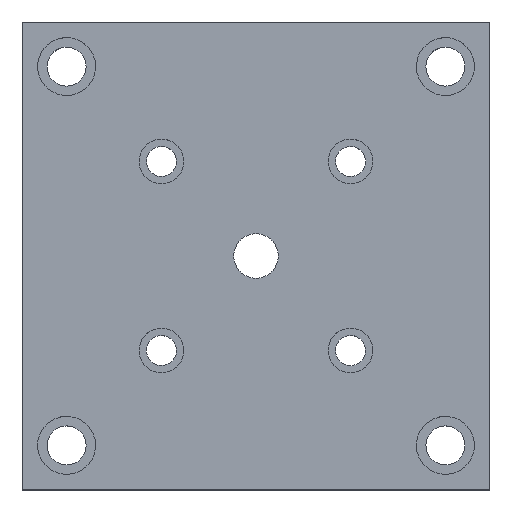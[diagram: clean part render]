
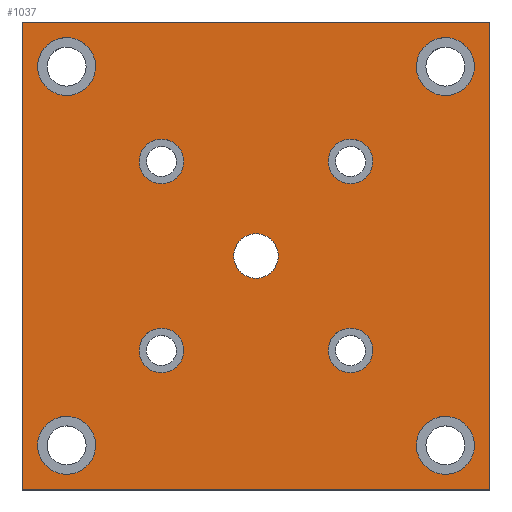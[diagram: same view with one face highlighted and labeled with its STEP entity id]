
A CAD part, top view. The second image highlights one B-rep face of the part: STEP entity #1037.
In plain terms, the highlighted planar face has unit normal (0, 0, 1).
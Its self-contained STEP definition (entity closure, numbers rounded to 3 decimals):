
#148=CARTESIAN_POINT('Vertex',(-48.063,161.937,25.)) ;
#162=CARTESIAN_POINT('Vertex',(-48.063,-48.063,25.)) ;
#165=CARTESIAN_POINT('Line Origine',(-48.063,56.937,25.)) ;
#193=CARTESIAN_POINT('Vertex',(161.937,-48.063,25.)) ;
#196=CARTESIAN_POINT('Line Origine',(56.937,-48.063,25.)) ;
#224=CARTESIAN_POINT('Vertex',(161.937,161.937,25.)) ;
#227=CARTESIAN_POINT('Line Origine',(161.937,56.937,25.)) ;
#249=CARTESIAN_POINT('Line Origine',(56.937,161.937,25.)) ;
#591=CARTESIAN_POINT('Axis2P3D Location',(56.937,56.937,25.)) ;
#595=CARTESIAN_POINT('Vertex',(66.937,56.937,25.)) ;
#597=CARTESIAN_POINT('Vertex',(46.937,56.937,25.)) ;
#626=CARTESIAN_POINT('Axis2P3D Location',(56.937,56.937,25.)) ;
#648=CARTESIAN_POINT('Axis2P3D Location',(-28.063,141.937,25.)) ;
#652=CARTESIAN_POINT('Vertex',(-16.654,135.705,25.)) ;
#654=CARTESIAN_POINT('Vertex',(-39.471,148.17,25.)) ;
#674=CARTESIAN_POINT('Axis2P3D Location',(-28.063,141.937,25.)) ;
#691=CARTESIAN_POINT('Axis2P3D Location',(141.937,141.937,25.)) ;
#695=CARTESIAN_POINT('Vertex',(153.346,135.705,25.)) ;
#697=CARTESIAN_POINT('Vertex',(130.529,148.17,25.)) ;
#717=CARTESIAN_POINT('Axis2P3D Location',(141.937,141.937,25.)) ;
#734=CARTESIAN_POINT('Axis2P3D Location',(-28.063,-28.063,25.)) ;
#738=CARTESIAN_POINT('Vertex',(-16.654,-34.295,25.)) ;
#740=CARTESIAN_POINT('Vertex',(-39.471,-21.83,25.)) ;
#760=CARTESIAN_POINT('Axis2P3D Location',(-28.063,-28.063,25.)) ;
#777=CARTESIAN_POINT('Axis2P3D Location',(141.937,-28.063,25.)) ;
#781=CARTESIAN_POINT('Vertex',(153.346,-34.295,25.)) ;
#783=CARTESIAN_POINT('Vertex',(130.529,-21.83,25.)) ;
#803=CARTESIAN_POINT('Axis2P3D Location',(141.937,-28.063,25.)) ;
#820=CARTESIAN_POINT('Axis2P3D Location',(14.507,99.367,25.)) ;
#824=CARTESIAN_POINT('Vertex',(5.732,104.162,25.)) ;
#826=CARTESIAN_POINT('Vertex',(23.283,94.573,25.)) ;
#846=CARTESIAN_POINT('Axis2P3D Location',(14.507,99.367,25.)) ;
#948=CARTESIAN_POINT('Axis2P3D Location',(0.,0.,25.)) ;
#959=CARTESIAN_POINT('Axis2P3D Location',(14.507,14.507,25.)) ;
#963=CARTESIAN_POINT('Vertex',(19.302,23.283,25.)) ;
#965=CARTESIAN_POINT('Vertex',(9.713,5.732,25.)) ;
#968=CARTESIAN_POINT('Axis2P3D Location',(14.507,14.507,25.)) ;
#1001=CARTESIAN_POINT('Axis2P3D Location',(99.367,14.507,25.)) ;
#1005=CARTESIAN_POINT('Vertex',(90.592,19.302,25.)) ;
#1007=CARTESIAN_POINT('Vertex',(108.143,9.713,25.)) ;
#1010=CARTESIAN_POINT('Axis2P3D Location',(99.367,14.507,25.)) ;
#1019=CARTESIAN_POINT('Axis2P3D Location',(99.367,99.367,25.)) ;
#1023=CARTESIAN_POINT('Vertex',(94.573,90.592,25.)) ;
#1025=CARTESIAN_POINT('Vertex',(104.162,108.143,25.)) ;
#1028=CARTESIAN_POINT('Axis2P3D Location',(99.367,99.367,25.)) ;
#166=DIRECTION('Vector Direction',(0.,-1.,0.)) ;
#197=DIRECTION('Vector Direction',(-1.,0.,0.)) ;
#228=DIRECTION('Vector Direction',(0.,1.,0.)) ;
#250=DIRECTION('Vector Direction',(1.,0.,0.)) ;
#592=DIRECTION('Axis2P3D Direction',(0.,0.,1.)) ;
#627=DIRECTION('Axis2P3D Direction',(0.,0.,1.)) ;
#649=DIRECTION('Axis2P3D Direction',(0.,0.,-1.)) ;
#675=DIRECTION('Axis2P3D Direction',(0.,0.,-1.)) ;
#692=DIRECTION('Axis2P3D Direction',(0.,0.,-1.)) ;
#718=DIRECTION('Axis2P3D Direction',(0.,0.,-1.)) ;
#735=DIRECTION('Axis2P3D Direction',(0.,0.,-1.)) ;
#761=DIRECTION('Axis2P3D Direction',(0.,0.,-1.)) ;
#778=DIRECTION('Axis2P3D Direction',(0.,0.,-1.)) ;
#804=DIRECTION('Axis2P3D Direction',(0.,0.,-1.)) ;
#821=DIRECTION('Axis2P3D Direction',(0.,0.,-1.)) ;
#847=DIRECTION('Axis2P3D Direction',(0.,0.,-1.)) ;
#949=DIRECTION('Axis2P3D Direction',(0.,0.,1.)) ;
#950=DIRECTION('Axis2P3D XDirection',(1.,0.,0.)) ;
#960=DIRECTION('Axis2P3D Direction',(0.,0.,1.)) ;
#969=DIRECTION('Axis2P3D Direction',(0.,0.,1.)) ;
#1002=DIRECTION('Axis2P3D Direction',(0.,0.,1.)) ;
#1011=DIRECTION('Axis2P3D Direction',(0.,0.,1.)) ;
#1020=DIRECTION('Axis2P3D Direction',(0.,0.,1.)) ;
#1029=DIRECTION('Axis2P3D Direction',(0.,0.,1.)) ;
#593=AXIS2_PLACEMENT_3D('Circle Axis2P3D',#591,#592,$) ;
#628=AXIS2_PLACEMENT_3D('Circle Axis2P3D',#626,#627,$) ;
#650=AXIS2_PLACEMENT_3D('Circle Axis2P3D',#648,#649,$) ;
#676=AXIS2_PLACEMENT_3D('Circle Axis2P3D',#674,#675,$) ;
#693=AXIS2_PLACEMENT_3D('Circle Axis2P3D',#691,#692,$) ;
#719=AXIS2_PLACEMENT_3D('Circle Axis2P3D',#717,#718,$) ;
#736=AXIS2_PLACEMENT_3D('Circle Axis2P3D',#734,#735,$) ;
#762=AXIS2_PLACEMENT_3D('Circle Axis2P3D',#760,#761,$) ;
#779=AXIS2_PLACEMENT_3D('Circle Axis2P3D',#777,#778,$) ;
#805=AXIS2_PLACEMENT_3D('Circle Axis2P3D',#803,#804,$) ;
#822=AXIS2_PLACEMENT_3D('Circle Axis2P3D',#820,#821,$) ;
#848=AXIS2_PLACEMENT_3D('Circle Axis2P3D',#846,#847,$) ;
#951=AXIS2_PLACEMENT_3D('Plane Axis2P3D',#948,#949,#950) ;
#961=AXIS2_PLACEMENT_3D('Circle Axis2P3D',#959,#960,$) ;
#970=AXIS2_PLACEMENT_3D('Circle Axis2P3D',#968,#969,$) ;
#1003=AXIS2_PLACEMENT_3D('Circle Axis2P3D',#1001,#1002,$) ;
#1012=AXIS2_PLACEMENT_3D('Circle Axis2P3D',#1010,#1011,$) ;
#1021=AXIS2_PLACEMENT_3D('Circle Axis2P3D',#1019,#1020,$) ;
#1030=AXIS2_PLACEMENT_3D('Circle Axis2P3D',#1028,#1029,$) ;
#954=ORIENTED_EDGE('',*,*,#169,.T.) ;
#955=ORIENTED_EDGE('',*,*,#200,.T.) ;
#956=ORIENTED_EDGE('',*,*,#231,.T.) ;
#957=ORIENTED_EDGE('',*,*,#253,.T.) ;
#974=ORIENTED_EDGE('',*,*,#967,.F.) ;
#975=ORIENTED_EDGE('',*,*,#972,.F.) ;
#978=ORIENTED_EDGE('',*,*,#828,.F.) ;
#979=ORIENTED_EDGE('',*,*,#850,.F.) ;
#982=ORIENTED_EDGE('',*,*,#807,.F.) ;
#983=ORIENTED_EDGE('',*,*,#785,.F.) ;
#986=ORIENTED_EDGE('',*,*,#764,.F.) ;
#987=ORIENTED_EDGE('',*,*,#742,.F.) ;
#990=ORIENTED_EDGE('',*,*,#721,.F.) ;
#991=ORIENTED_EDGE('',*,*,#699,.F.) ;
#994=ORIENTED_EDGE('',*,*,#678,.F.) ;
#995=ORIENTED_EDGE('',*,*,#656,.F.) ;
#998=ORIENTED_EDGE('',*,*,#630,.F.) ;
#999=ORIENTED_EDGE('',*,*,#599,.F.) ;
#1016=ORIENTED_EDGE('',*,*,#1009,.F.) ;
#1017=ORIENTED_EDGE('',*,*,#1014,.F.) ;
#1034=ORIENTED_EDGE('',*,*,#1027,.F.) ;
#1035=ORIENTED_EDGE('',*,*,#1032,.F.) ;
#976=FACE_BOUND('',#973,.T.) ;
#980=FACE_BOUND('',#977,.T.) ;
#984=FACE_BOUND('',#981,.T.) ;
#988=FACE_BOUND('',#985,.T.) ;
#992=FACE_BOUND('',#989,.T.) ;
#996=FACE_BOUND('',#993,.T.) ;
#1000=FACE_BOUND('',#997,.T.) ;
#1018=FACE_BOUND('',#1015,.T.) ;
#1036=FACE_BOUND('',#1033,.T.) ;
#167=VECTOR('Line Direction',#166,1.) ;
#198=VECTOR('Line Direction',#197,1.) ;
#229=VECTOR('Line Direction',#228,1.) ;
#251=VECTOR('Line Direction',#250,1.) ;
#1037=ADVANCED_FACE('',(#958,#976,#980,#984,#988,#992,#996,#1000,#1018,#1036),#952,.T.) ;
#594=CIRCLE('generated circle',#593,10.) ;
#629=CIRCLE('generated circle',#628,10.) ;
#651=CIRCLE('generated circle',#650,13.) ;
#677=CIRCLE('generated circle',#676,13.) ;
#694=CIRCLE('generated circle',#693,13.) ;
#720=CIRCLE('generated circle',#719,13.) ;
#737=CIRCLE('generated circle',#736,13.) ;
#763=CIRCLE('generated circle',#762,13.) ;
#780=CIRCLE('generated circle',#779,13.) ;
#806=CIRCLE('generated circle',#805,13.) ;
#823=CIRCLE('generated circle',#822,10.) ;
#849=CIRCLE('generated circle',#848,10.) ;
#962=CIRCLE('generated circle',#961,10.) ;
#971=CIRCLE('generated circle',#970,10.) ;
#1004=CIRCLE('generated circle',#1003,10.) ;
#1013=CIRCLE('generated circle',#1012,10.) ;
#1022=CIRCLE('generated circle',#1021,10.) ;
#1031=CIRCLE('generated circle',#1030,10.) ;
#169=EDGE_CURVE('',#149,#163,#168,.T.) ;
#200=EDGE_CURVE('',#163,#194,#199,.F.) ;
#231=EDGE_CURVE('',#194,#225,#230,.T.) ;
#253=EDGE_CURVE('',#225,#149,#252,.F.) ;
#599=EDGE_CURVE('',#596,#598,#594,.T.) ;
#630=EDGE_CURVE('',#598,#596,#629,.T.) ;
#656=EDGE_CURVE('',#653,#655,#651,.F.) ;
#678=EDGE_CURVE('',#655,#653,#677,.F.) ;
#699=EDGE_CURVE('',#696,#698,#694,.F.) ;
#721=EDGE_CURVE('',#698,#696,#720,.F.) ;
#742=EDGE_CURVE('',#739,#741,#737,.F.) ;
#764=EDGE_CURVE('',#741,#739,#763,.F.) ;
#785=EDGE_CURVE('',#782,#784,#780,.F.) ;
#807=EDGE_CURVE('',#784,#782,#806,.F.) ;
#828=EDGE_CURVE('',#825,#827,#823,.F.) ;
#850=EDGE_CURVE('',#827,#825,#849,.F.) ;
#967=EDGE_CURVE('',#964,#966,#962,.T.) ;
#972=EDGE_CURVE('',#966,#964,#971,.T.) ;
#1009=EDGE_CURVE('',#1006,#1008,#1004,.T.) ;
#1014=EDGE_CURVE('',#1008,#1006,#1013,.T.) ;
#1027=EDGE_CURVE('',#1024,#1026,#1022,.T.) ;
#1032=EDGE_CURVE('',#1026,#1024,#1031,.T.) ;
#953=EDGE_LOOP('',(#954,#955,#956,#957)) ;
#973=EDGE_LOOP('',(#974,#975)) ;
#977=EDGE_LOOP('',(#978,#979)) ;
#981=EDGE_LOOP('',(#982,#983)) ;
#985=EDGE_LOOP('',(#986,#987)) ;
#989=EDGE_LOOP('',(#990,#991)) ;
#993=EDGE_LOOP('',(#994,#995)) ;
#997=EDGE_LOOP('',(#998,#999)) ;
#1015=EDGE_LOOP('',(#1016,#1017)) ;
#1033=EDGE_LOOP('',(#1034,#1035)) ;
#958=FACE_OUTER_BOUND('',#953,.T.) ;
#168=LINE('Line',#165,#167) ;
#199=LINE('Line',#196,#198) ;
#230=LINE('Line',#227,#229) ;
#252=LINE('Line',#249,#251) ;
#952=PLANE('Plane',#951) ;
#149=VERTEX_POINT('',#148) ;
#163=VERTEX_POINT('',#162) ;
#194=VERTEX_POINT('',#193) ;
#225=VERTEX_POINT('',#224) ;
#596=VERTEX_POINT('',#595) ;
#598=VERTEX_POINT('',#597) ;
#653=VERTEX_POINT('',#652) ;
#655=VERTEX_POINT('',#654) ;
#696=VERTEX_POINT('',#695) ;
#698=VERTEX_POINT('',#697) ;
#739=VERTEX_POINT('',#738) ;
#741=VERTEX_POINT('',#740) ;
#782=VERTEX_POINT('',#781) ;
#784=VERTEX_POINT('',#783) ;
#825=VERTEX_POINT('',#824) ;
#827=VERTEX_POINT('',#826) ;
#964=VERTEX_POINT('',#963) ;
#966=VERTEX_POINT('',#965) ;
#1006=VERTEX_POINT('',#1005) ;
#1008=VERTEX_POINT('',#1007) ;
#1024=VERTEX_POINT('',#1023) ;
#1026=VERTEX_POINT('',#1025) ;
